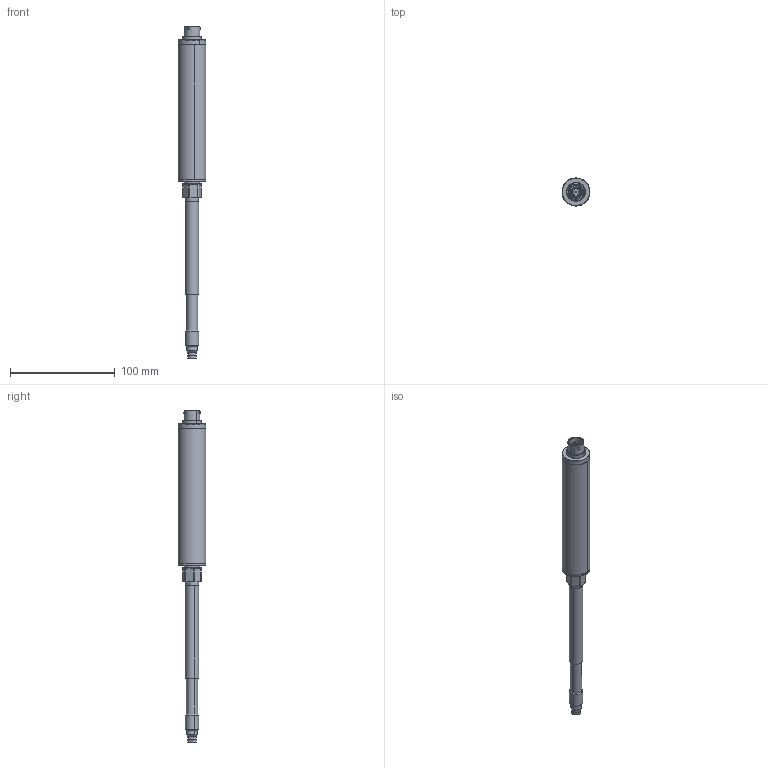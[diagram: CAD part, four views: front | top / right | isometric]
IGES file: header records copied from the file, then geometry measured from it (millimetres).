
Start section: SolidWorks IGES file using analytic representation for surfaces
Global section: file name: C:\Users\daniele.peli\Desktop\KE0-7-x-xxxx-1-4-0-x-P-E.IGS; native system: SolidWorks 2021; preprocessor: SolidWorks 2021; author: daniele.peli; date: 210210.101946; units: millimetre
Bounding box: 26.5 x 26.5 x 316.67 mm (x, y, z)
Surface area: 20610.7 mm2 (no closed solid volume)
Topology: 0 solids, 0 shells, 112 faces, 1392 edges, 1392 vertices
Faces by surface type: revolution 68, bspline 44
